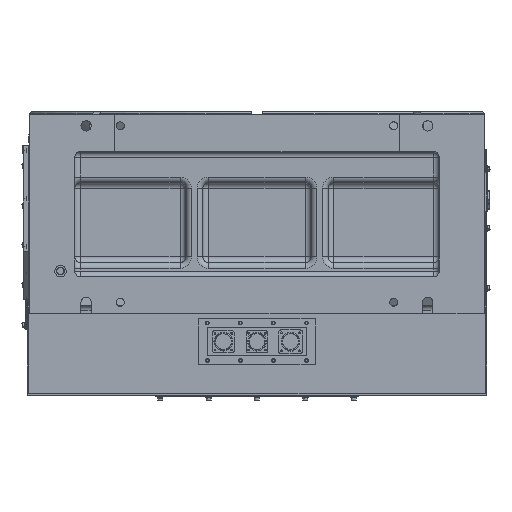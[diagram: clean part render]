
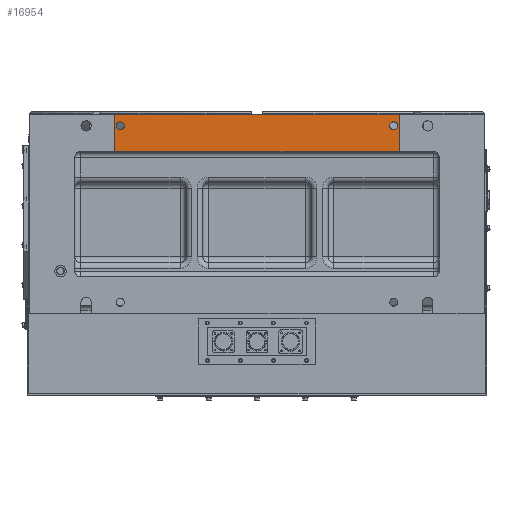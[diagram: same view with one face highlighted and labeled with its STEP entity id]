
A CAD part, front view. The second image highlights one B-rep face of the part: STEP entity #16954.
In plain terms, the highlighted planar face has unit normal (0, -1, 0).
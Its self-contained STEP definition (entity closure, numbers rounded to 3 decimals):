
#918 = CARTESIAN_POINT ( 'NONE',  ( -250., -479.5, -10. ) ) ;
#964 = EDGE_CURVE ( 'NONE', #42388, #5492, #18033, .T. ) ;
#1510 = ORIENTED_EDGE ( 'NONE', *, *, #30022, .T. ) ;
#1789 = ORIENTED_EDGE ( 'NONE', *, *, #37649, .T. ) ;
#2651 = CARTESIAN_POINT ( 'NONE',  ( 240., -479.5, 42. ) ) ;
#4133 = CARTESIAN_POINT ( 'NONE',  ( 250., -479.5, -10. ) ) ;
#4421 = VECTOR ( 'NONE', #45791, 1000. ) ;
#5492 = VERTEX_POINT ( 'NONE', #2651 ) ;
#5612 = DIRECTION ( 'NONE',  ( 0., 0., 1. ) ) ;
#6161 = VERTEX_POINT ( 'NONE', #9616 ) ;
#6415 = FACE_BOUND ( 'NONE', #23549, .T. ) ;
#6932 = CARTESIAN_POINT ( 'NONE',  ( -250., -479.5, -15. ) ) ;
#7031 = AXIS2_PLACEMENT_3D ( 'NONE', #21596, #17616, #33243 ) ;
#8041 = AXIS2_PLACEMENT_3D ( 'NONE', #16803, #8623, #24497 ) ;
#8169 = VERTEX_POINT ( 'NONE', #43103 ) ;
#8623 = DIRECTION ( 'NONE',  ( 0., 1., 0. ) ) ;
#8984 = EDGE_CURVE ( 'NONE', #8169, #10819, #25482, .T. ) ;
#9616 = CARTESIAN_POINT ( 'NONE',  ( -250., -479.5, 55. ) ) ;
#10819 = VERTEX_POINT ( 'NONE', #29244 ) ;
#11164 = AXIS2_PLACEMENT_3D ( 'NONE', #15656, #15907, #35263 ) ;
#11959 = DIRECTION ( 'NONE',  ( 0., 0., 1. ) ) ;
#12037 = VERTEX_POINT ( 'NONE', #918 ) ;
#13199 = VECTOR ( 'NONE', #11959, 1000. ) ;
#15656 = CARTESIAN_POINT ( 'NONE',  ( 240., -479.5, 35. ) ) ;
#15907 = DIRECTION ( 'NONE',  ( 0., 1., 0. ) ) ;
#16803 = CARTESIAN_POINT ( 'NONE',  ( -240., -479.5, 35. ) ) ;
#16954 = ADVANCED_FACE ( 'NONE', ( #6415, #18832, #30769 ), #27306, .F. ) ;
#17306 = DIRECTION ( 'NONE',  ( -1., 0., 0. ) ) ;
#17616 = DIRECTION ( 'NONE',  ( 0., 1., 0. ) ) ;
#17883 = AXIS2_PLACEMENT_3D ( 'NONE', #6932, #22802, #34989 ) ;
#18033 = CIRCLE ( 'NONE', #11164, 7. ) ;
#18832 = FACE_BOUND ( 'NONE', #30827, .T. ) ;
#21596 = CARTESIAN_POINT ( 'NONE',  ( 240., -479.5, 35. ) ) ;
#21935 = EDGE_CURVE ( 'NONE', #5492, #42388, #34906, .T. ) ;
#22802 = DIRECTION ( 'NONE',  ( 0., 1., 0. ) ) ;
#23549 = EDGE_LOOP ( 'NONE', ( #35094, #26070 ) ) ;
#24404 = LINE ( 'NONE', #44784, #13199 ) ;
#24497 = DIRECTION ( 'NONE',  ( 0., 0., 1. ) ) ;
#24875 = EDGE_CURVE ( 'NONE', #10819, #8169, #40190, .T. ) ;
#25482 = CIRCLE ( 'NONE', #40656, 7. ) ;
#26070 = ORIENTED_EDGE ( 'NONE', *, *, #24875, .T. ) ;
#26315 = LINE ( 'NONE', #29758, #43994 ) ;
#27306 = PLANE ( 'NONE',  #17883 ) ;
#29244 = CARTESIAN_POINT ( 'NONE',  ( -240., -479.5, 28. ) ) ;
#29758 = CARTESIAN_POINT ( 'NONE',  ( -320., -479.5, -10. ) ) ;
#29843 = CARTESIAN_POINT ( 'NONE',  ( 240., -479.5, 28. ) ) ;
#30022 = EDGE_CURVE ( 'NONE', #48356, #45860, #24404, .T. ) ;
#30769 = FACE_OUTER_BOUND ( 'NONE', #49320, .T. ) ;
#30827 = EDGE_LOOP ( 'NONE', ( #49360, #40523 ) ) ;
#32833 = DIRECTION ( 'NONE',  ( 0., 0., 1. ) ) ;
#33167 = CARTESIAN_POINT ( 'NONE',  ( 250., -479.5, 55. ) ) ;
#33243 = DIRECTION ( 'NONE',  ( 0., 0., 1. ) ) ;
#34016 = CARTESIAN_POINT ( 'NONE',  ( -250., -479.5, -15. ) ) ;
#34906 = CIRCLE ( 'NONE', #7031, 7. ) ;
#34989 = DIRECTION ( 'NONE',  ( 0., 0., 1. ) ) ;
#35094 = ORIENTED_EDGE ( 'NONE', *, *, #8984, .T. ) ;
#35263 = DIRECTION ( 'NONE',  ( 0., 0., 1. ) ) ;
#35547 = EDGE_CURVE ( 'NONE', #48356, #12037, #26315, .T. ) ;
#36030 = CARTESIAN_POINT ( 'NONE',  ( -240., -479.5, 35. ) ) ;
#37649 = EDGE_CURVE ( 'NONE', #45860, #6161, #41282, .T. ) ;
#40190 = CIRCLE ( 'NONE', #8041, 7. ) ;
#40523 = ORIENTED_EDGE ( 'NONE', *, *, #964, .T. ) ;
#40656 = AXIS2_PLACEMENT_3D ( 'NONE', #36030, #48754, #32833 ) ;
#41282 = LINE ( 'NONE', #42080, #4421 ) ;
#42080 = CARTESIAN_POINT ( 'NONE',  ( -250., -479.5, 55. ) ) ;
#42388 = VERTEX_POINT ( 'NONE', #29843 ) ;
#43056 = EDGE_CURVE ( 'NONE', #12037, #6161, #50706, .T. ) ;
#43103 = CARTESIAN_POINT ( 'NONE',  ( -240., -479.5, 42. ) ) ;
#43994 = VECTOR ( 'NONE', #17306, 1000. ) ;
#44316 = ORIENTED_EDGE ( 'NONE', *, *, #43056, .F. ) ;
#44784 = CARTESIAN_POINT ( 'NONE',  ( 250., -479.5, -15. ) ) ;
#45791 = DIRECTION ( 'NONE',  ( -1., 0., 0. ) ) ;
#45860 = VERTEX_POINT ( 'NONE', #33167 ) ;
#46519 = ORIENTED_EDGE ( 'NONE', *, *, #35547, .F. ) ;
#48356 = VERTEX_POINT ( 'NONE', #4133 ) ;
#48720 = VECTOR ( 'NONE', #5612, 1000. ) ;
#48754 = DIRECTION ( 'NONE',  ( 0., 1., 0. ) ) ;
#49320 = EDGE_LOOP ( 'NONE', ( #1510, #1789, #44316, #46519 ) ) ;
#49360 = ORIENTED_EDGE ( 'NONE', *, *, #21935, .T. ) ;
#50706 = LINE ( 'NONE', #34016, #48720 ) ;
